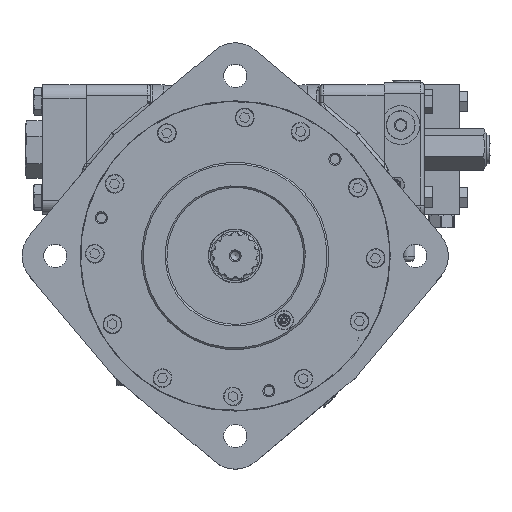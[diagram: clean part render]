
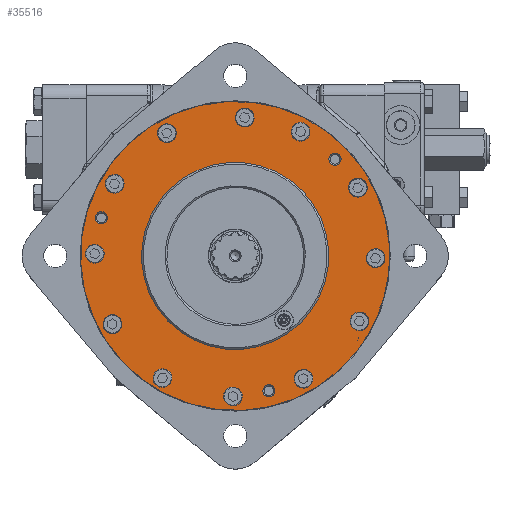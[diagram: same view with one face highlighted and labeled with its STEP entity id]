
A CAD part, top view. The second image highlights one B-rep face of the part: STEP entity #35516.
In plain terms, the highlighted planar face has unit normal (0, 0, 1).
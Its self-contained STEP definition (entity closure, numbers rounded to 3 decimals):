
#1553=FACE_BOUND('',#9659,.T.);
#1554=FACE_BOUND('',#9660,.T.);
#1555=FACE_BOUND('',#9661,.T.);
#1556=FACE_BOUND('',#9662,.T.);
#1557=FACE_BOUND('',#9663,.T.);
#1558=FACE_BOUND('',#9664,.T.);
#1559=FACE_BOUND('',#9665,.T.);
#1560=FACE_BOUND('',#9666,.T.);
#1561=FACE_BOUND('',#9667,.T.);
#1562=FACE_BOUND('',#9668,.T.);
#1563=FACE_BOUND('',#9669,.T.);
#1564=FACE_BOUND('',#9670,.T.);
#1565=FACE_BOUND('',#9671,.T.);
#1566=FACE_BOUND('',#9672,.T.);
#1567=FACE_BOUND('',#9673,.T.);
#1568=FACE_BOUND('',#9674,.T.);
#7372=FACE_OUTER_BOUND('',#9658,.T.);
#9658=EDGE_LOOP('',(#25596));
#9659=EDGE_LOOP('',(#25597));
#9660=EDGE_LOOP('',(#25598));
#9661=EDGE_LOOP('',(#25599));
#9662=EDGE_LOOP('',(#25600));
#9663=EDGE_LOOP('',(#25601));
#9664=EDGE_LOOP('',(#25602));
#9665=EDGE_LOOP('',(#25603));
#9666=EDGE_LOOP('',(#25604));
#9667=EDGE_LOOP('',(#25605));
#9668=EDGE_LOOP('',(#25606));
#9669=EDGE_LOOP('',(#25607));
#9670=EDGE_LOOP('',(#25608));
#9671=EDGE_LOOP('',(#25609));
#9672=EDGE_LOOP('',(#25610));
#9673=EDGE_LOOP('',(#25611));
#9674=EDGE_LOOP('',(#25612));
#12323=CIRCLE('',#38394,8.223);
#12324=CIRCLE('',#38396,136.271);
#12325=CIRCLE('',#38397,5.334);
#12326=CIRCLE('',#38398,5.334);
#12327=CIRCLE('',#38399,8.223);
#12328=CIRCLE('',#38400,8.223);
#12329=CIRCLE('',#38401,8.223);
#12330=CIRCLE('',#38402,8.223);
#12331=CIRCLE('',#38403,8.223);
#12332=CIRCLE('',#38404,8.223);
#12333=CIRCLE('',#38405,8.223);
#12334=CIRCLE('',#38406,8.223);
#12335=CIRCLE('',#38407,8.223);
#12336=CIRCLE('',#38408,8.223);
#12337=CIRCLE('',#38409,8.223);
#12338=CIRCLE('',#38410,5.334);
#12339=CIRCLE('',#38411,82.537);
#14503=VERTEX_POINT('',#66540);
#14504=VERTEX_POINT('',#66543);
#14505=VERTEX_POINT('',#66545);
#14506=VERTEX_POINT('',#66547);
#14507=VERTEX_POINT('',#66549);
#14508=VERTEX_POINT('',#66551);
#14509=VERTEX_POINT('',#66553);
#14510=VERTEX_POINT('',#66555);
#14511=VERTEX_POINT('',#66557);
#14512=VERTEX_POINT('',#66559);
#14513=VERTEX_POINT('',#66561);
#14514=VERTEX_POINT('',#66563);
#14515=VERTEX_POINT('',#66565);
#14516=VERTEX_POINT('',#66567);
#14517=VERTEX_POINT('',#66569);
#14518=VERTEX_POINT('',#66571);
#14519=VERTEX_POINT('',#66573);
#18805=EDGE_CURVE('',#14503,#14503,#12323,.T.);
#18806=EDGE_CURVE('',#14504,#14504,#12324,.T.);
#18807=EDGE_CURVE('',#14505,#14505,#12325,.T.);
#18808=EDGE_CURVE('',#14506,#14506,#12326,.T.);
#18809=EDGE_CURVE('',#14507,#14507,#12327,.T.);
#18810=EDGE_CURVE('',#14508,#14508,#12328,.T.);
#18811=EDGE_CURVE('',#14509,#14509,#12329,.T.);
#18812=EDGE_CURVE('',#14510,#14510,#12330,.T.);
#18813=EDGE_CURVE('',#14511,#14511,#12331,.T.);
#18814=EDGE_CURVE('',#14512,#14512,#12332,.T.);
#18815=EDGE_CURVE('',#14513,#14513,#12333,.T.);
#18816=EDGE_CURVE('',#14514,#14514,#12334,.T.);
#18817=EDGE_CURVE('',#14515,#14515,#12335,.T.);
#18818=EDGE_CURVE('',#14516,#14516,#12336,.T.);
#18819=EDGE_CURVE('',#14517,#14517,#12337,.T.);
#18820=EDGE_CURVE('',#14518,#14518,#12338,.T.);
#18821=EDGE_CURVE('',#14519,#14519,#12339,.T.);
#25596=ORIENTED_EDGE('',*,*,#18806,.F.);
#25597=ORIENTED_EDGE('',*,*,#18805,.F.);
#25598=ORIENTED_EDGE('',*,*,#18807,.F.);
#25599=ORIENTED_EDGE('',*,*,#18808,.F.);
#25600=ORIENTED_EDGE('',*,*,#18809,.F.);
#25601=ORIENTED_EDGE('',*,*,#18810,.F.);
#25602=ORIENTED_EDGE('',*,*,#18811,.F.);
#25603=ORIENTED_EDGE('',*,*,#18812,.F.);
#25604=ORIENTED_EDGE('',*,*,#18813,.F.);
#25605=ORIENTED_EDGE('',*,*,#18814,.F.);
#25606=ORIENTED_EDGE('',*,*,#18815,.F.);
#25607=ORIENTED_EDGE('',*,*,#18816,.F.);
#25608=ORIENTED_EDGE('',*,*,#18817,.F.);
#25609=ORIENTED_EDGE('',*,*,#18818,.F.);
#25610=ORIENTED_EDGE('',*,*,#18819,.F.);
#25611=ORIENTED_EDGE('',*,*,#18820,.F.);
#25612=ORIENTED_EDGE('',*,*,#18821,.F.);
#31937=PLANE('',#38395);
#35516=ADVANCED_FACE('',(#7372,#1553,#1554,#1555,#1556,#1557,#1558,#1559,
#1560,#1561,#1562,#1563,#1564,#1565,#1566,#1567,#1568),#31937,.F.);
#38394=AXIS2_PLACEMENT_3D('',#66541,#44068,#44069);
#38395=AXIS2_PLACEMENT_3D('',#66542,#44070,#44071);
#38396=AXIS2_PLACEMENT_3D('',#66544,#44072,#44073);
#38397=AXIS2_PLACEMENT_3D('',#66546,#44074,#44075);
#38398=AXIS2_PLACEMENT_3D('',#66548,#44076,#44077);
#38399=AXIS2_PLACEMENT_3D('',#66550,#44078,#44079);
#38400=AXIS2_PLACEMENT_3D('',#66552,#44080,#44081);
#38401=AXIS2_PLACEMENT_3D('',#66554,#44082,#44083);
#38402=AXIS2_PLACEMENT_3D('',#66556,#44084,#44085);
#38403=AXIS2_PLACEMENT_3D('',#66558,#44086,#44087);
#38404=AXIS2_PLACEMENT_3D('',#66560,#44088,#44089);
#38405=AXIS2_PLACEMENT_3D('',#66562,#44090,#44091);
#38406=AXIS2_PLACEMENT_3D('',#66564,#44092,#44093);
#38407=AXIS2_PLACEMENT_3D('',#66566,#44094,#44095);
#38408=AXIS2_PLACEMENT_3D('',#66568,#44096,#44097);
#38409=AXIS2_PLACEMENT_3D('',#66570,#44098,#44099);
#38410=AXIS2_PLACEMENT_3D('',#66572,#44100,#44101);
#38411=AXIS2_PLACEMENT_3D('',#66574,#44102,#44103);
#44068=DIRECTION('center_axis',(0.,0.,
1.));
#44069=DIRECTION('ref_axis',(0.274,0.962,0.));
#44070=DIRECTION('center_axis',(0.,0.,
-1.));
#44071=DIRECTION('ref_axis',(-0.962,0.274,0.));
#44072=DIRECTION('center_axis',(0.,0.,
-1.));
#44073=DIRECTION('ref_axis',(0.962,-0.274,0.));
#44074=DIRECTION('center_axis',(0.,0.,
1.));
#44075=DIRECTION('ref_axis',(0.274,0.962,0.));
#44076=DIRECTION('center_axis',(0.,0.,
1.));
#44077=DIRECTION('ref_axis',(-0.274,-0.962,0.));
#44078=DIRECTION('center_axis',(0.,0.,
1.));
#44079=DIRECTION('ref_axis',(-0.274,-0.962,0.));
#44080=DIRECTION('center_axis',(0.,0.,
1.));
#44081=DIRECTION('ref_axis',(-0.274,-0.962,0.));
#44082=DIRECTION('center_axis',(0.,0.,
1.));
#44083=DIRECTION('ref_axis',(0.274,0.962,0.));
#44084=DIRECTION('center_axis',(0.,0.,
1.));
#44085=DIRECTION('ref_axis',(-0.274,-0.962,0.));
#44086=DIRECTION('center_axis',(0.,0.,
1.));
#44087=DIRECTION('ref_axis',(-0.274,-0.962,0.));
#44088=DIRECTION('center_axis',(0.,0.,
1.));
#44089=DIRECTION('ref_axis',(0.274,0.962,0.));
#44090=DIRECTION('center_axis',(0.,0.,
1.));
#44091=DIRECTION('ref_axis',(-0.274,-0.962,0.));
#44092=DIRECTION('center_axis',(0.,0.,
1.));
#44093=DIRECTION('ref_axis',(-0.274,-0.962,0.));
#44094=DIRECTION('center_axis',(0.,0.,
1.));
#44095=DIRECTION('ref_axis',(-0.274,-0.962,0.));
#44096=DIRECTION('center_axis',(0.,0.,
1.));
#44097=DIRECTION('ref_axis',(-0.274,-0.962,0.));
#44098=DIRECTION('center_axis',(0.,0.,
1.));
#44099=DIRECTION('ref_axis',(-0.274,-0.962,0.));
#44100=DIRECTION('center_axis',(0.,0.,
1.));
#44101=DIRECTION('ref_axis',(-0.274,-0.962,0.));
#44102=DIRECTION('center_axis',(0.,0.,
1.));
#44103=DIRECTION('ref_axis',(0.962,-0.274,0.));
#66540=CARTESIAN_POINT('',(0.265,-115.906,0.051));
#66541=CARTESIAN_POINT('Origin',(-1.991,-123.813,0.051));
#66542=CARTESIAN_POINT('Origin',(-105.206,30.016,0.051));
#66543=CARTESIAN_POINT('',(131.042,-37.387,0.051));
#66544=CARTESIAN_POINT('Origin',(0.,0.,
0.051));
#66545=CARTESIAN_POINT('',(86.531,80.174,0.051));
#66546=CARTESIAN_POINT('Origin',(87.994,85.303,0.051));
#66547=CARTESIAN_POINT('',(31.199,-113.763,0.051));
#66548=CARTESIAN_POINT('Origin',(29.736,-118.892,0.051));
#66549=CARTESIAN_POINT('',(59.929,117.472,0.051));
#66550=CARTESIAN_POINT('Origin',(57.673,109.565,0.051));
#66551=CARTESIAN_POINT('',(10.646,129.895,0.051));
#66552=CARTESIAN_POINT('Origin',(8.39,121.988,0.051));
#66553=CARTESIAN_POINT('',(105.959,52.265,0.051));
#66554=CARTESIAN_POINT('Origin',(108.215,60.173,0.051));
#66555=CARTESIAN_POINT('',(62.429,-100.307,0.051));
#66556=CARTESIAN_POINT('Origin',(60.173,-108.215,0.051));
#66557=CARTESIAN_POINT('',(126.07,5.917,0.051));
#66558=CARTESIAN_POINT('Origin',(123.813,-1.991,0.051));
#66559=CARTESIAN_POINT('',(-62.429,100.307,0.051));
#66560=CARTESIAN_POINT('Origin',(-60.173,108.215,0.051));
#66561=CARTESIAN_POINT('',(-61.816,-99.831,0.051));
#66562=CARTESIAN_POINT('Origin',(-64.072,-107.739,0.051));
#66563=CARTESIAN_POINT('',(-105.959,-52.265,0.051));
#66564=CARTESIAN_POINT('Origin',(-108.215,-60.173,0.051));
#66565=CARTESIAN_POINT('',(-103.968,71.548,0.051));
#66566=CARTESIAN_POINT('Origin',(-106.225,63.64,0.051));
#66567=CARTESIAN_POINT('',(111.796,-49.758,0.051));
#66568=CARTESIAN_POINT('Origin',(109.54,-57.666,0.051));
#66569=CARTESIAN_POINT('',(-121.557,9.898,0.051));
#66570=CARTESIAN_POINT('Origin',(-123.813,1.991,0.051));
#66571=CARTESIAN_POINT('',(-116.511,38.788,0.051));
#66572=CARTESIAN_POINT('Origin',(-117.974,33.659,0.051));
#66573=CARTESIAN_POINT('',(-79.37,22.645,0.051));
#66574=CARTESIAN_POINT('Origin',(0.,0.,
0.051));
